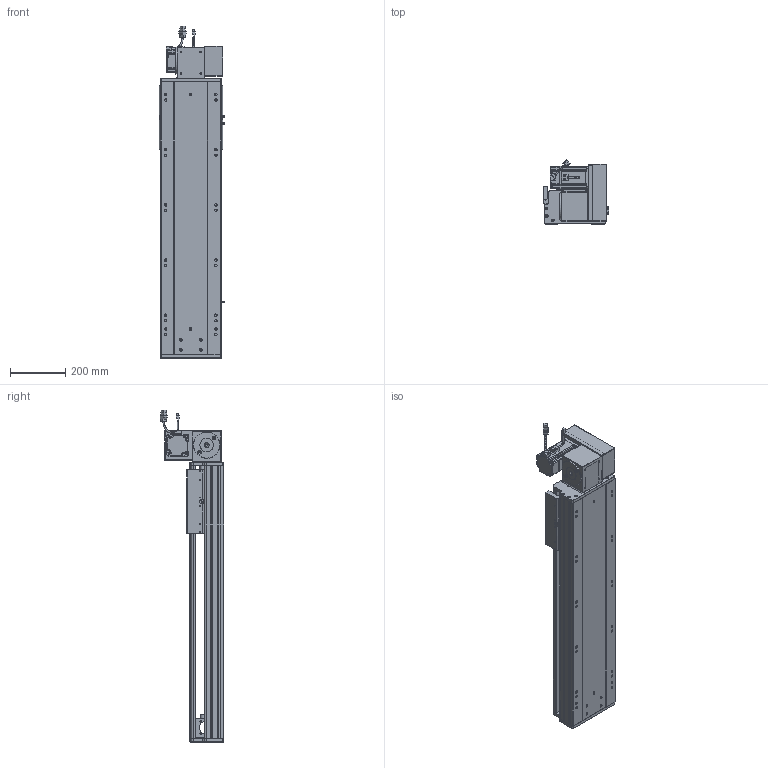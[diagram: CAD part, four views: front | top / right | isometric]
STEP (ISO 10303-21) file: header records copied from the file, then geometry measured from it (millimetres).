
FILE_DESCRIPTION (( 'STEP AP203' ), '1' );
FILE_NAME ('RY220-T-300-UR.SLDASM_650.step', '2022-07-25T08:42:53', ( '' ), ( '' ), 'SwSTEP 2.0', 'SolidWorks 2016', '' );
FILE_SCHEMA (( 'CONFIG_CONTROL_DESIGN' ));
Length unit declared in the file: millimetre
Products named in the file (14): RY220圉猾敕々湍臏賑輸; RY220-T-300-奻裔啣_650; RY220-T菁釱-300_650; 110A-T-肮祭謫釱傷裔; RY220翋肮祭謫釱; 覜茼ん672; RY220-T-蛌殏萇儂假蚾啣(750W); RY220-T-湍謫欶(鍼踢); RY220-俋离672覜茼んえ; RY220-同步轮副支撑座6304×2; 怢湛750W_ECMA-CX0807ES; RY220-T-300-UR.SLDASM_650; 滅袉蝶18-15; RY220翋肮祭謫裔啣
Assembly tree (18 placements, depth 2):
  RY220-T-300-UR.SLDASM_650
    RY220-T菁釱-300_650
    RY220翋肮祭謫釱
    覜茼ん672  x3
    RY220圉猾敕々湍臏賑輸
    RY220-T-300-奻裔啣_650
    RY220-俋离672覜茼んえ
    滅袉蝶18-15  x3
    RY220翋肮祭謫裔啣  x2
    110A-T-肮祭謫釱傷裔
    怢湛750W_ECMA-CX0807ES
    RY220-T-湍謫欶(鍼踢)
    RY220-T-蛌殏萇儂假蚾啣(750W)
    RY220-同步轮副支撑座6304×2
Bounding box: 238.7 x 231.74 x 1203.27 mm (x, y, z)
Volume: 9991860.6 mm3; surface area: 2842727.8 mm2
Topology: 19 solids, 19 shells, 2562 faces, 7067 edges, 4498 vertices
Faces by surface type: cylinder 1186, plane 1069, cone 225, bspline 56, sphere 16, torus 10
Entity records: 85251 total; most frequent: CARTESIAN_POINT 24403, ORIENTED_EDGE 12666, DIRECTION 11904, EDGE_CURVE 6333, AXIS2_PLACEMENT_3D 4188, VERTEX_POINT 4122, LINE 3528, VECTOR 3528
